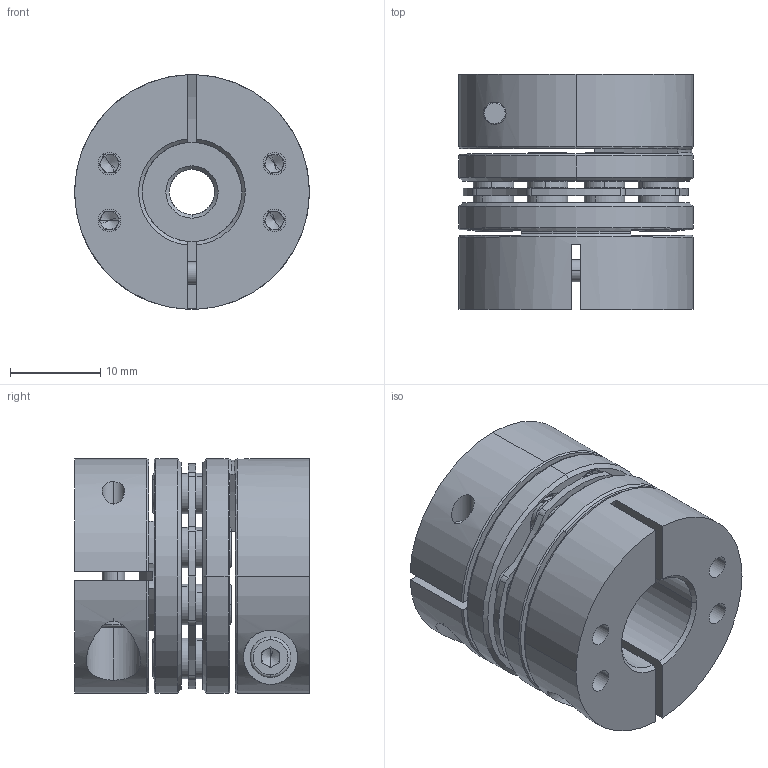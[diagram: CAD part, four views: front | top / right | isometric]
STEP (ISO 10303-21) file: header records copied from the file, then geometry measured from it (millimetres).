
FILE_DESCRIPTION (( 'STEP AP203' ), '1' );
FILE_NAME ('LDG-D26-5-11.STEP', '2021-10-28T03:23:47', ( '' ), ( '' ), 'SwSTEP 2.0', 'SolidWorks 2018', '' );
FILE_SCHEMA (( 'CONFIG_CONTROL_DESIGN' ));
Length unit declared in the file: millimetre
Products named in the file (2): LDG-D26-5-11; 錨璃2^LDG-D26蚾饜芞1
Assembly tree (1 placements, depth 2):
  LDG-D26-5-11
    錨璃2^LDG-D26蚾饜芞1
Bounding box: 26 x 26 x 26 mm (x, y, z)
Volume: 9972.4 mm3; surface area: 8994.1 mm2
Topology: 1 solids, 21 shells, 765 faces, 1872 edges, 1159 vertices
Faces by surface type: cylinder 301, plane 244, cone 200, torus 20
Entity records: 23059 total; most frequent: DIRECTION 4281, CARTESIAN_POINT 4166, ORIENTED_EDGE 3688, EDGE_CURVE 1844, AXIS2_PLACEMENT_3D 1740, VERTEX_POINT 1159, CIRCLE 971, EDGE_LOOP 909
